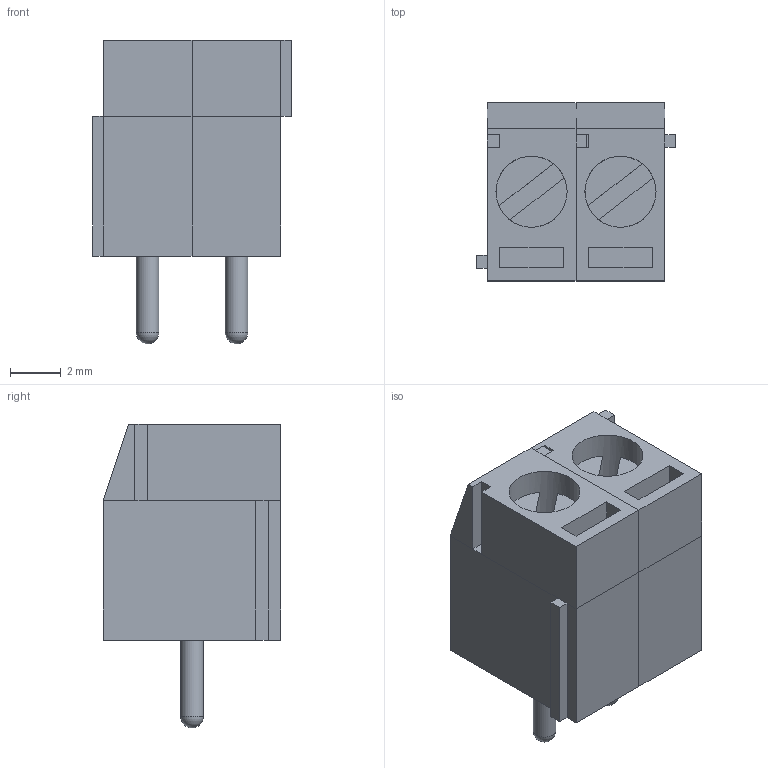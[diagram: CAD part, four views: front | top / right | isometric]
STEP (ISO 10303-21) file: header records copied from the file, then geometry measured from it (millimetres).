
FILE_DESCRIPTION(('FreeCAD Model'),'2;1');
FILE_NAME('Open CASCADE Shape Model','2023-12-01T11:21:29',('Author'),( ''),'Open CASCADE STEP processor 7.6','FreeCAD','Unknown');
FILE_SCHEMA(('AUTOMOTIVE_DESIGN { 1 0 10303 214 1 1 1 1 }'));
Length unit declared in the file: millimetre
Products named in the file (1): Group002
Bounding box: 7.8 x 7 x 11.95 mm (x, y, z)
Volume: 298.4 mm3; surface area: 545.2 mm2
Topology: 1 solids, 1 shells, 96 faces, 230 edges, 144 vertices
Faces by surface type: plane 90, cylinder 4, sphere 2
Full cylindrical faces by diameter (mm): 0.9 x2, 2.8 x2
Entity records: 6274 total; most frequent: CARTESIAN_POINT 1063, DIRECTION 788, LINE 550, VECTOR 550, ORIENTED_EDGE 456, PCURVE 456, DEFINITIONAL_REPRESENTATION 456, EDGE_CURVE 228
